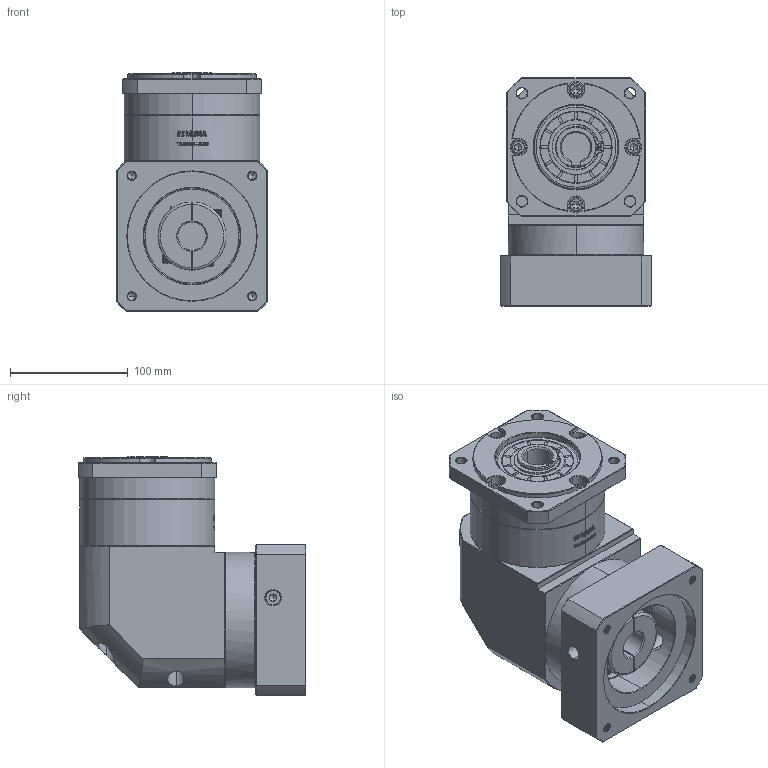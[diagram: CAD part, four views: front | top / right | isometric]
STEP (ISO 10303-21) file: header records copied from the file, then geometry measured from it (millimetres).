
FILE_DESCRIPTION (( 'STEP AP214' ), '1' );
FILE_NAME ('ZFR120A-K25-L1-24-110-145-M8.step', '2023-03-08T08:30:15', ( '' ), ( '' ), 'SwSTEP 2.0', 'SolidWorks 2016', '' );
FILE_SCHEMA (( 'AUTOMOTIVE_DESIGN' ));
Length unit declared in the file: millimetre
Products named in the file (1): ZFR120A-K25-L1-24-110-145-M8
Bounding box: 128 x 193.9 x 203 mm (x, y, z)
Volume: 2931165.6 mm3; surface area: 249266.5 mm2
Topology: 6 solids, 6 shells, 2814 faces, 7531 edges, 4862 vertices
Faces by surface type: plane 1477, bspline 597, cylinder 401, cone 331, torus 8
Entity records: 152444 total; most frequent: CARTESIAN_POINT 56809, ORIENTED_EDGE 15006, DIRECTION 10937, EDGE_CURVE 7503, VERTEX_POINT 4862, VECTOR 4697, LINE 4697, AXIS2_PLACEMENT_3D 3120
